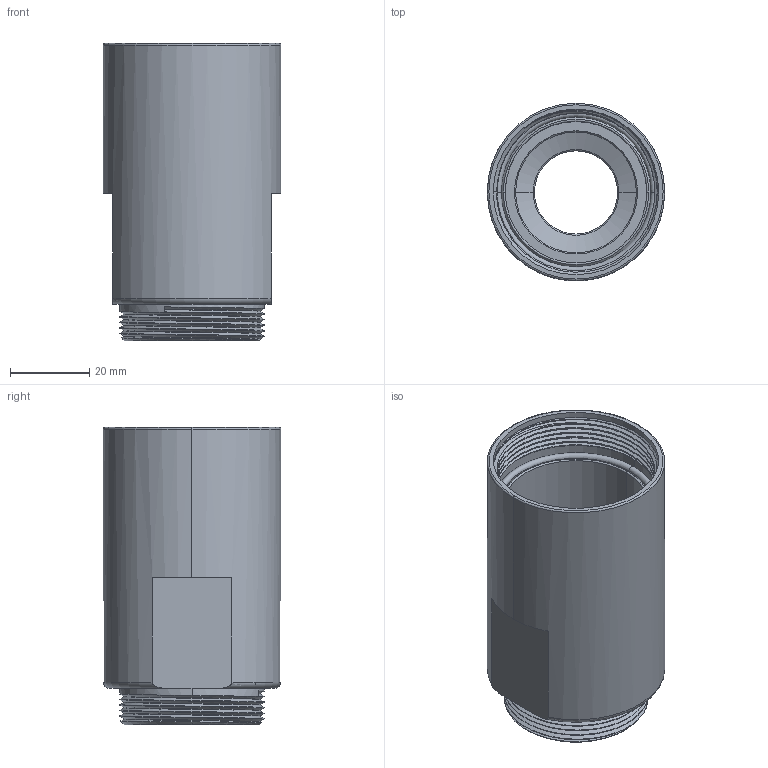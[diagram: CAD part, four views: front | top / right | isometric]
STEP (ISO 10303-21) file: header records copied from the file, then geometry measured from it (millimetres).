
FILE_DESCRIPTION (( 'STEP AP203' ), '1' );
FILE_NAME ('CE01-28BSL-DS(R1).STEP', '2021-04-23T07:20:03', ( '' ), ( '' ), 'SwSTEP 2.0', 'SolidWorks 2018', '' );
FILE_SCHEMA (( 'CONFIG_CONTROL_DESIGN' ));
Length unit declared in the file: millimetre
Products named in the file (1): CE01-28BSL-DS(R1)
Bounding box: 44.8 x 44.8 x 75 mm (x, y, z)
Volume: 37471.5 mm3; surface area: 22000.9 mm2
Topology: 1 solids, 1 shells, 105 faces, 270 edges, 170 vertices
Faces by surface type: cylinder 59, torus 16, cone 16, plane 10, bspline 4
Entity records: 5606 total; most frequent: CARTESIAN_POINT 3243, ORIENTED_EDGE 540, DIRECTION 438, EDGE_CURVE 270, AXIS2_PLACEMENT_3D 178, VERTEX_POINT 170, EDGE_LOOP 110, ADVANCED_FACE 105
